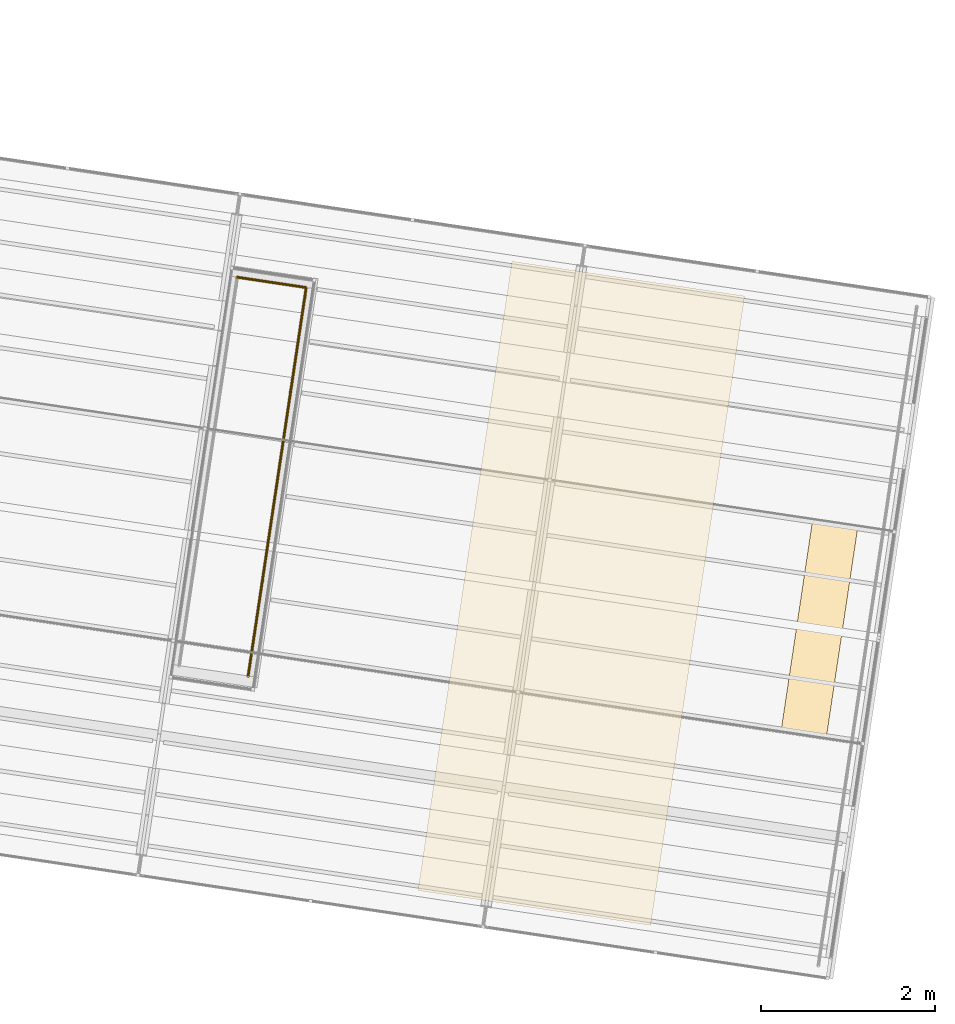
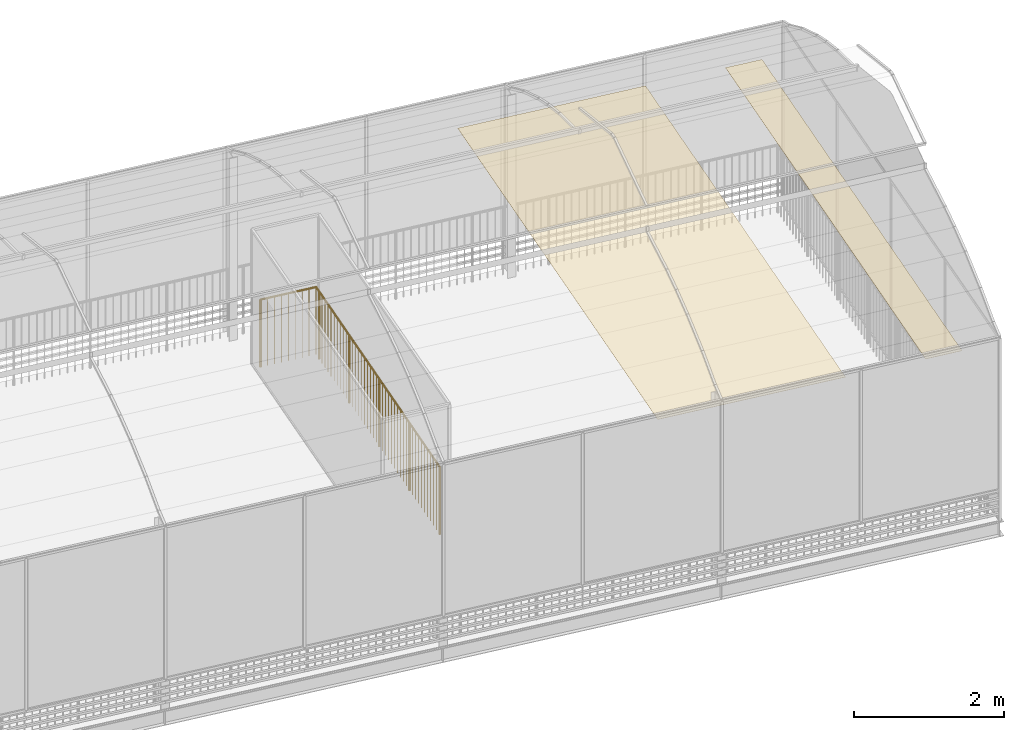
# One storey, part 32 of 34: 2 coverings, 2 railings.
"""IFC4 building model written with IfcOpenShell, lengths in metres."""

from ifc_helpers import new_model, si_unit, direction, frame, origin_with_axes, place, context, subcontext, project, spatial, polyline, circle, outline, extrude, material, element, save


model = new_model("IFC4")

# Units and contexts
model_context = context("Model", 3, precision=1e-05, world=origin_with_axes(), true_north=direction((0.0, 1.0)))
body_context = subcontext(model_context, "Body", "Model", "MODEL_VIEW")
ifc_project = project(units=[si_unit("AREAUNIT", "SQUARE_METRE"), si_unit("VOLUMEUNIT", "CUBIC_METRE"), si_unit("LENGTHUNIT", "METRE")], contexts=[model_context])

# Site, building, storey
site_placement = place(None, origin_with_axes())
site = spatial("IfcSite", under=ifc_project, at=site_placement, Name="Lares · Rua das Mercês · artigo 4771")
building_placement = place(site_placement, frame((15.0, 9.7, 14.65), z_axis=(0.0, 0.0, 1.0), x_axis=(0.989015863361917, -0.147809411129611, 0.0)))
building = spatial("IfcBuilding", under=site, at=building_placement, Name="Casa Sobreposta")
storey_placement = place(building_placement, frame((0.0, 0.0, 3.24), z_axis=(0.0, 0.0, 1.0), x_axis=(1.0, 0.0, 0.0)))
storey = spatial("IfcBuildingStorey", under=building, at=storey_placement, Name="01 · Jardim de inverno", Elevation=17.89)

# Coverings
ifc_material_1 = material(Name="Tecido de sombreamento — hipótese", Category="fabric")
covering_1_placement = place(storey_placement, frame((0.0, 0.0, 2.68), z_axis=(0.0, 0.0, 1.0), x_axis=(1.0, 0.0, 0.0)))
element("IfcCovering", 1, at=covering_1_placement, inside=storey, material=ifc_material_1, Name="Cortina interior · 75%", ObjectType="Cortina interior · 75%", PredefinedType="USERDEFINED", context=body_context, shape_type="SweptSolid", body=[
    extrude(outline(polyline([(29.9, -1.2), (29.9, 6.1), (27.2, 6.1), (27.2, -1.2), (29.9, -1.2)])), origin_with_axes(), (0.0, 0.0, 1.0), 0.004),
])
covering_2_placement = place(storey_placement, frame((0.0, 0.0, 2.68), z_axis=(0.0, 0.0, 1.0), x_axis=(1.0, 0.0, 0.0)))
element("IfcCovering", 2, at=covering_2_placement, inside=storey, material=ifc_material_1, Name="Cortina interior · 75%", ObjectType="Cortina interior · 75%", PredefinedType="USERDEFINED", context=body_context, shape_type="SweptSolid", body=[
    extrude(outline(polyline([(31.575, -1.2), (31.575, 6.1), (31.05, 6.1), (31.05, -1.2), (31.575, -1.2)])), origin_with_axes(), (0.0, 0.0, 1.0), 0.004),
])

# Railings
ifc_material_2 = material(Name="Aço pintado / Stahl lackiert", Category="steel")
railing_1_placement = place(storey_placement, frame((0.0, 0.0, -3.24), z_axis=(0.0, 0.0, 1.0), x_axis=(1.0, 0.0, 0.0)))
element("IfcRailing", 3, at=railing_1_placement, inside=storey, material=ifc_material_2, Name="Guarda do vazio", PredefinedType="GUARDRAIL", context=body_context, shape_type="SweptSolid", body=[
    extrude(circle(Radius=0.015), frame((24.91, 0.9475, 4.34), z_axis=(0.0, 1.0, 0.0), x_axis=(1.0, 0.0, 0.0)), (0.0, 0.0, 1.0), 4.505),
    extrude(circle(Radius=0.0175), frame((24.91, 0.9475, 3.24), z_axis=(0.0, 0.0, 1.0), x_axis=(1.0, 0.0, 0.0)), (0.0, 0.0, 1.0), 1.1),
    extrude(circle(Radius=0.006), frame((24.91, 1.05737804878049, 3.24), z_axis=(0.0, 0.0, 1.0), x_axis=(1.0, 0.0, 0.0)), (0.0, 0.0, 1.0), 1.1),
    extrude(circle(Radius=0.006), frame((24.91, 1.16725609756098, 3.24), z_axis=(0.0, 0.0, 1.0), x_axis=(1.0, 0.0, 0.0)), (0.0, 0.0, 1.0), 1.1),
    extrude(circle(Radius=0.006), frame((24.91, 1.27713414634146, 3.24), z_axis=(0.0, 0.0, 1.0), x_axis=(1.0, 0.0, 0.0)), (0.0, 0.0, 1.0), 1.1),
    extrude(circle(Radius=0.006), frame((24.91, 1.38701219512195, 3.24), z_axis=(0.0, 0.0, 1.0), x_axis=(1.0, 0.0, 0.0)), (0.0, 0.0, 1.0), 1.1),
    extrude(circle(Radius=0.006), frame((24.91, 1.49689024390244, 3.24), z_axis=(0.0, 0.0, 1.0), x_axis=(1.0, 0.0, 0.0)), (0.0, 0.0, 1.0), 1.1),
    extrude(circle(Radius=0.006), frame((24.91, 1.60676829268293, 3.24), z_axis=(0.0, 0.0, 1.0), x_axis=(1.0, 0.0, 0.0)), (0.0, 0.0, 1.0), 1.1),
    extrude(circle(Radius=0.006), frame((24.91, 1.71664634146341, 3.24), z_axis=(0.0, 0.0, 1.0), x_axis=(1.0, 0.0, 0.0)), (0.0, 0.0, 1.0), 1.1),
    extrude(circle(Radius=0.006), frame((24.91, 1.8265243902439, 3.24), z_axis=(0.0, 0.0, 1.0), x_axis=(1.0, 0.0, 0.0)), (0.0, 0.0, 1.0), 1.1),
    extrude(circle(Radius=0.006), frame((24.91, 1.93640243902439, 3.24), z_axis=(0.0, 0.0, 1.0), x_axis=(1.0, 0.0, 0.0)), (0.0, 0.0, 1.0), 1.1),
    extrude(circle(Radius=0.0175), frame((24.91, 2.04628048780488, 3.24), z_axis=(0.0, 0.0, 1.0), x_axis=(1.0, 0.0, 0.0)), (0.0, 0.0, 1.0), 1.1),
    extrude(circle(Radius=0.006), frame((24.91, 2.15615853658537, 3.24), z_axis=(0.0, 0.0, 1.0), x_axis=(1.0, 0.0, 0.0)), (0.0, 0.0, 1.0), 1.1),
    extrude(circle(Radius=0.006), frame((24.91, 2.26603658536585, 3.24), z_axis=(0.0, 0.0, 1.0), x_axis=(1.0, 0.0, 0.0)), (0.0, 0.0, 1.0), 1.1),
    extrude(circle(Radius=0.006), frame((24.91, 2.37591463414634, 3.24), z_axis=(0.0, 0.0, 1.0), x_axis=(1.0, 0.0, 0.0)), (0.0, 0.0, 1.0), 1.1),
    extrude(circle(Radius=0.006), frame((24.91, 2.48579268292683, 3.24), z_axis=(0.0, 0.0, 1.0), x_axis=(1.0, 0.0, 0.0)), (0.0, 0.0, 1.0), 1.1),
    extrude(circle(Radius=0.006), frame((24.91, 2.59567073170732, 3.24), z_axis=(0.0, 0.0, 1.0), x_axis=(1.0, 0.0, 0.0)), (0.0, 0.0, 1.0), 1.1),
    extrude(circle(Radius=0.006), frame((24.91, 2.7055487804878, 3.24), z_axis=(0.0, 0.0, 1.0), x_axis=(1.0, 0.0, 0.0)), (0.0, 0.0, 1.0), 1.1),
    extrude(circle(Radius=0.006), frame((24.91, 2.81542682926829, 3.24), z_axis=(0.0, 0.0, 1.0), x_axis=(1.0, 0.0, 0.0)), (0.0, 0.0, 1.0), 1.1),
    extrude(circle(Radius=0.006), frame((24.91, 2.92530487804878, 3.24), z_axis=(0.0, 0.0, 1.0), x_axis=(1.0, 0.0, 0.0)), (0.0, 0.0, 1.0), 1.1),
    extrude(circle(Radius=0.006), frame((24.91, 3.03518292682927, 3.24), z_axis=(0.0, 0.0, 1.0), x_axis=(1.0, 0.0, 0.0)), (0.0, 0.0, 1.0), 1.1),
    extrude(circle(Radius=0.0175), frame((24.91, 3.14506097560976, 3.24), z_axis=(0.0, 0.0, 1.0), x_axis=(1.0, 0.0, 0.0)), (0.0, 0.0, 1.0), 1.1),
    extrude(circle(Radius=0.006), frame((24.91, 3.25493902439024, 3.24), z_axis=(0.0, 0.0, 1.0), x_axis=(1.0, 0.0, 0.0)), (0.0, 0.0, 1.0), 1.1),
    extrude(circle(Radius=0.006), frame((24.91, 3.36481707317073, 3.24), z_axis=(0.0, 0.0, 1.0), x_axis=(1.0, 0.0, 0.0)), (0.0, 0.0, 1.0), 1.1),
    extrude(circle(Radius=0.006), frame((24.91, 3.47469512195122, 3.24), z_axis=(0.0, 0.0, 1.0), x_axis=(1.0, 0.0, 0.0)), (0.0, 0.0, 1.0), 1.1),
    extrude(circle(Radius=0.006), frame((24.91, 3.58457317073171, 3.24), z_axis=(0.0, 0.0, 1.0), x_axis=(1.0, 0.0, 0.0)), (0.0, 0.0, 1.0), 1.1),
    extrude(circle(Radius=0.006), frame((24.91, 3.6944512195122, 3.24), z_axis=(0.0, 0.0, 1.0), x_axis=(1.0, 0.0, 0.0)), (0.0, 0.0, 1.0), 1.1),
    extrude(circle(Radius=0.006), frame((24.91, 3.80432926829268, 3.24), z_axis=(0.0, 0.0, 1.0), x_axis=(1.0, 0.0, 0.0)), (0.0, 0.0, 1.0), 1.1),
    extrude(circle(Radius=0.006), frame((24.91, 3.91420731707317, 3.24), z_axis=(0.0, 0.0, 1.0), x_axis=(1.0, 0.0, 0.0)), (0.0, 0.0, 1.0), 1.1),
    extrude(circle(Radius=0.006), frame((24.91, 4.02408536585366, 3.24), z_axis=(0.0, 0.0, 1.0), x_axis=(1.0, 0.0, 0.0)), (0.0, 0.0, 1.0), 1.1),
    extrude(circle(Radius=0.006), frame((24.91, 4.13396341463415, 3.24), z_axis=(0.0, 0.0, 1.0), x_axis=(1.0, 0.0, 0.0)), (0.0, 0.0, 1.0), 1.1),
    extrude(circle(Radius=0.0175), frame((24.91, 4.24384146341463, 3.24), z_axis=(0.0, 0.0, 1.0), x_axis=(1.0, 0.0, 0.0)), (0.0, 0.0, 1.0), 1.1),
    extrude(circle(Radius=0.006), frame((24.91, 4.35371951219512, 3.24), z_axis=(0.0, 0.0, 1.0), x_axis=(1.0, 0.0, 0.0)), (0.0, 0.0, 1.0), 1.1),
    extrude(circle(Radius=0.006), frame((24.91, 4.46359756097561, 3.24), z_axis=(0.0, 0.0, 1.0), x_axis=(1.0, 0.0, 0.0)), (0.0, 0.0, 1.0), 1.1),
    extrude(circle(Radius=0.006), frame((24.91, 4.5734756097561, 3.24), z_axis=(0.0, 0.0, 1.0), x_axis=(1.0, 0.0, 0.0)), (0.0, 0.0, 1.0), 1.1),
    extrude(circle(Radius=0.006), frame((24.91, 4.68335365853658, 3.24), z_axis=(0.0, 0.0, 1.0), x_axis=(1.0, 0.0, 0.0)), (0.0, 0.0, 1.0), 1.1),
    extrude(circle(Radius=0.006), frame((24.91, 4.79323170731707, 3.24), z_axis=(0.0, 0.0, 1.0), x_axis=(1.0, 0.0, 0.0)), (0.0, 0.0, 1.0), 1.1),
    extrude(circle(Radius=0.006), frame((24.91, 4.90310975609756, 3.24), z_axis=(0.0, 0.0, 1.0), x_axis=(1.0, 0.0, 0.0)), (0.0, 0.0, 1.0), 1.1),
    extrude(circle(Radius=0.006), frame((24.91, 5.01298780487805, 3.24), z_axis=(0.0, 0.0, 1.0), x_axis=(1.0, 0.0, 0.0)), (0.0, 0.0, 1.0), 1.1),
    extrude(circle(Radius=0.006), frame((24.91, 5.12286585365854, 3.24), z_axis=(0.0, 0.0, 1.0), x_axis=(1.0, 0.0, 0.0)), (0.0, 0.0, 1.0), 1.1),
    extrude(circle(Radius=0.006), frame((24.91, 5.23274390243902, 3.24), z_axis=(0.0, 0.0, 1.0), x_axis=(1.0, 0.0, 0.0)), (0.0, 0.0, 1.0), 1.1),
    extrude(circle(Radius=0.0175), frame((24.91, 5.34262195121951, 3.24), z_axis=(0.0, 0.0, 1.0), x_axis=(1.0, 0.0, 0.0)), (0.0, 0.0, 1.0), 1.1),
    extrude(circle(Radius=0.006), frame((24.91, 5.4525, 3.24), z_axis=(0.0, 0.0, 1.0), x_axis=(1.0, 0.0, 0.0)), (0.0, 0.0, 1.0), 1.1),
])
railing_2_placement = place(storey_placement, frame((0.0, 0.0, -3.24), z_axis=(0.0, 0.0, 1.0), x_axis=(1.0, 0.0, 0.0)))
element("IfcRailing", 4, at=railing_2_placement, inside=storey, material=ifc_material_2, Name="Guarda do vazio", PredefinedType="GUARDRAIL", context=body_context, shape_type="SweptSolid", body=[
    extrude(circle(Radius=0.015), frame((24.11, 5.4525, 4.34), z_axis=(1.0, 0.0, 0.0), x_axis=(0.0, -1.0, 0.0)), (0.0, 0.0, 1.0), 0.800000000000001),
    extrude(circle(Radius=0.0175), frame((24.11, 5.4525, 3.24), z_axis=(0.0, 0.0, 1.0), x_axis=(1.0, 0.0, 0.0)), (0.0, 0.0, 1.0), 1.1),
    extrude(circle(Radius=0.006), frame((24.21, 5.4525, 3.24), z_axis=(0.0, 0.0, 1.0), x_axis=(1.0, 0.0, 0.0)), (0.0, 0.0, 1.0), 1.1),
    extrude(circle(Radius=0.006), frame((24.31, 5.4525, 3.24), z_axis=(0.0, 0.0, 1.0), x_axis=(1.0, 0.0, 0.0)), (0.0, 0.0, 1.0), 1.1),
    extrude(circle(Radius=0.006), frame((24.41, 5.4525, 3.24), z_axis=(0.0, 0.0, 1.0), x_axis=(1.0, 0.0, 0.0)), (0.0, 0.0, 1.0), 1.1),
    extrude(circle(Radius=0.006), frame((24.51, 5.4525, 3.24), z_axis=(0.0, 0.0, 1.0), x_axis=(1.0, 0.0, 0.0)), (0.0, 0.0, 1.0), 1.1),
    extrude(circle(Radius=0.006), frame((24.61, 5.4525, 3.24), z_axis=(0.0, 0.0, 1.0), x_axis=(1.0, 0.0, 0.0)), (0.0, 0.0, 1.0), 1.1),
    extrude(circle(Radius=0.006), frame((24.71, 5.4525, 3.24), z_axis=(0.0, 0.0, 1.0), x_axis=(1.0, 0.0, 0.0)), (0.0, 0.0, 1.0), 1.1),
    extrude(circle(Radius=0.006), frame((24.81, 5.4525, 3.24), z_axis=(0.0, 0.0, 1.0), x_axis=(1.0, 0.0, 0.0)), (0.0, 0.0, 1.0), 1.1),
    extrude(circle(Radius=0.006), frame((24.91, 5.4525, 3.24), z_axis=(0.0, 0.0, 1.0), x_axis=(1.0, 0.0, 0.0)), (0.0, 0.0, 1.0), 1.1),
])

save(model, "model.ifc")
